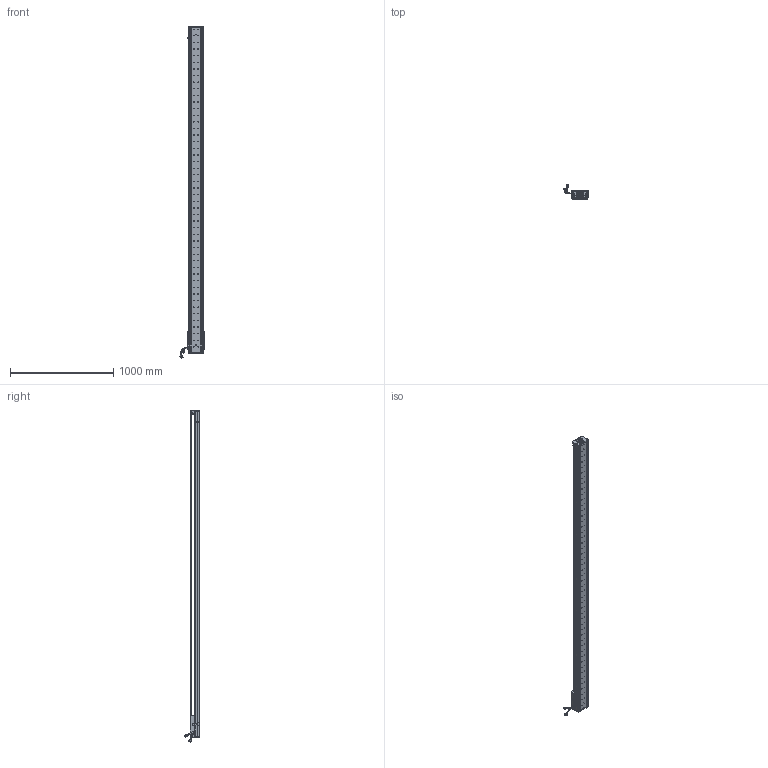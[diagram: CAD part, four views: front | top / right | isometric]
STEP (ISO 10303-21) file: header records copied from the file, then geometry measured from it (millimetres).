
FILE_DESCRIPTION (( 'STEP AP203' ), '1' );
FILE_NAME ('Z2-RY140D-1-L500-B-K.SLDASM_2900.step', '2021-05-17T07:51:44', ( '盈信电脑' ), ( '东莞市道滘镇水果街19号' ), 'SwSTEP 2.0', 'SolidWorks 2016', '' );
FILE_SCHEMA (( 'CONFIG_CONTROL_DESIGN' ));
Length unit declared in the file: millimetre
Products named in the file (36): LABEL; Z2-RY140-L500詩湍100mm遵_2900; Z-RY140詩湍奻揤裔; COVER-Part-1; Z-RY140詩湍狟揤裔; SCREW-M1.6-1; SCALE-Part-1; SCREW-M1.6; SCREW-M1.6-3; SCALE-Part-2; SEAL; PSLH080_PSLF2; 080黍杅芛假蚾釱21遴; SCREW-M1.7-1; SHIELDPLATE; Z-RY140感应器672光电感应片; Z2-RY140D-1-L500-B-K.SLDASM_2900; HARNESS-Part-1; 140雄赽晤鎢ん堤盄; 140-Z-臏賑輸盄裔(21遴); PBU_SHEET; HOLDER0; SCREW-M1.6-2; COVER; 榋妏寠巭燃_暯_M2_2; SCREW-M1.7; LABEL-Part-1; HARNESS; Z2-RY140圉猾敕臏賑輸(21遴); HARNESS-Part-2; Z-140詩湍傷裔啣; SEAL-Part-1; 140蚥薯蝶輸; Z2-RY140-L500直线电机模组底座_2900; 覜茼ん672; SCALE
Assembly tree (41 placements, depth 4):
  Z2-RY140D-1-L500-B-K.SLDASM_2900
    Z2-RY140-L500直线电机模组底座_2900
    Z-RY140感应器672光电感应片
    Z2-RY140圉猾敕臏賑輸(21遴)
    覜茼ん672  x3
    Z2-RY140-L500詩湍100mm遵_2900
    PSLH080_PSLF2
      SCALE
        SCALE-Part-1
        SCALE-Part-2
      HARNESS
        HARNESS-Part-1
        HARNESS-Part-2
      LABEL
        LABEL-Part-1
      COVER
        COVER-Part-1
      SEAL
        SEAL-Part-1
      榋妏寠巭燃_暯_M2_2
      SHIELDPLATE
      SCREW-M1.7
      SCREW-M1.7-1
      PBU_SHEET
      SCREW-M1.6
      SCREW-M1.6-1
      SCREW-M1.6-2
      SCREW-M1.6-3
      HOLDER0
    080黍杅芛假蚾釱21遴
    140-Z-臏賑輸盄裔(21遴)
    Z-140詩湍傷裔啣  x2
    Z-RY140詩湍狟揤裔  x2
    Z-RY140詩湍奻揤裔  x2
    140蚥薯蝶輸  x2
    140雄赽晤鎢ん堤盄
Bounding box: 239.79 x 143.77 x 3210.87 mm (x, y, z)
Volume: 9899409.7 mm3; surface area: 2602327.1 mm2
Topology: 36 solids, 36 shells, 4478 faces, 12266 edges, 7771 vertices
Faces by surface type: cylinder 2484, plane 1436, cone 426, torus 79, bspline 53
Entity records: 144510 total; most frequent: CARTESIAN_POINT 41759, ORIENTED_EDGE 21388, DIRECTION 19538, EDGE_CURVE 10694, AXIS2_PLACEMENT_3D 7286, VERTEX_POINT 6939, LINE 4966, VECTOR 4966
